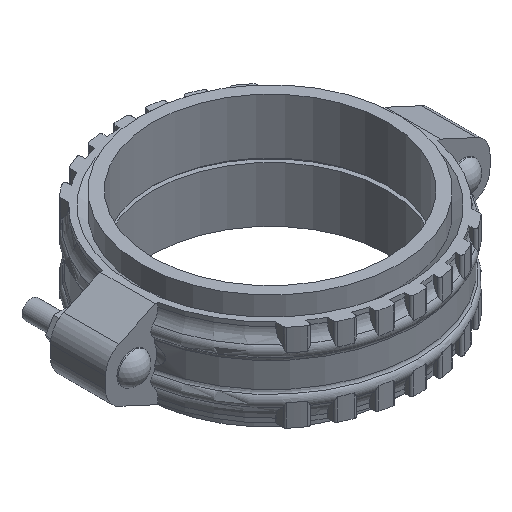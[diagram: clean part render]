
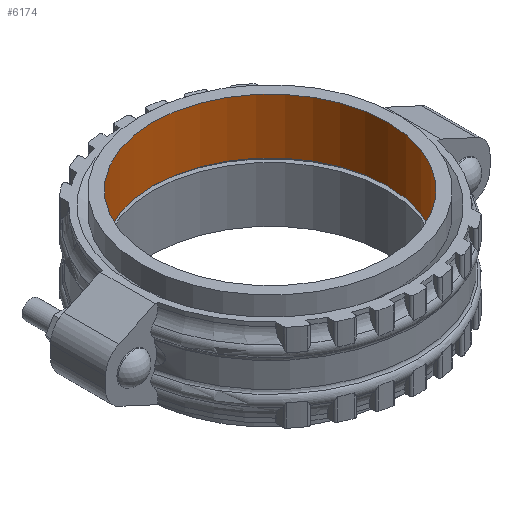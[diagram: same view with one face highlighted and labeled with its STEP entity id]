
A CAD part, isometric view. The second image highlights one B-rep face of the part: STEP entity #6174.
In plain terms, the highlighted cylindrical face has radius 161.925 mm (diameter 323.85 mm), a full revolution.
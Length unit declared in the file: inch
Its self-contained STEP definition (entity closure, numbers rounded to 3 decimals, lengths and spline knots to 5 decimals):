
#410=CYLINDRICAL_SURFACE('',#6867,6.375);
#706=FACE_OUTER_BOUND('',#1002,.T.);
#1002=EDGE_LOOP('',(#5506,#5507,#5508,#5509,#5510,#5511));
#1397=LINE('',#12021,#1790);
#1790=VECTOR('',#8504,6.375);
#2125=CIRCLE('',#6865,6.375);
#2126=CIRCLE('',#6866,6.375);
#2127=CIRCLE('',#6868,6.375);
#2128=CIRCLE('',#6869,6.375);
#2731=VERTEX_POINT('',#12015);
#2732=VERTEX_POINT('',#12016);
#2733=VERTEX_POINT('',#12020);
#2734=VERTEX_POINT('',#12022);
#3657=EDGE_CURVE('',#2731,#2732,#2125,.T.);
#3658=EDGE_CURVE('',#2732,#2731,#2126,.T.);
#3659=EDGE_CURVE('',#2732,#2733,#1397,.T.);
#3660=EDGE_CURVE('',#2734,#2733,#2127,.T.);
#3661=EDGE_CURVE('',#2733,#2734,#2128,.T.);
#5506=ORIENTED_EDGE('',*,*,#3657,.T.);
#5507=ORIENTED_EDGE('',*,*,#3659,.T.);
#5508=ORIENTED_EDGE('',*,*,#3660,.F.);
#5509=ORIENTED_EDGE('',*,*,#3661,.F.);
#5510=ORIENTED_EDGE('',*,*,#3659,.F.);
#5511=ORIENTED_EDGE('',*,*,#3658,.T.);
#6174=ADVANCED_FACE('',(#706),#410,.F.);
#6865=AXIS2_PLACEMENT_3D('',#12017,#8498,#8499);
#6866=AXIS2_PLACEMENT_3D('',#12018,#8500,#8501);
#6867=AXIS2_PLACEMENT_3D('',#12019,#8502,#8503);
#6868=AXIS2_PLACEMENT_3D('',#12023,#8505,#8506);
#6869=AXIS2_PLACEMENT_3D('',#12024,#8507,#8508);
#8498=DIRECTION('center_axis',(0.,0.,-1.));
#8499=DIRECTION('ref_axis',(1.,0.,0.));
#8500=DIRECTION('center_axis',(0.,0.,-1.));
#8501=DIRECTION('ref_axis',(1.,0.,0.));
#8502=DIRECTION('center_axis',(0.,0.,-1.));
#8503=DIRECTION('ref_axis',(0.,1.,0.));
#8504=DIRECTION('',(0.,0.,1.));
#8505=DIRECTION('center_axis',(0.,0.,-1.));
#8506=DIRECTION('ref_axis',(1.,0.,0.));
#8507=DIRECTION('center_axis',(0.,0.,-1.));
#8508=DIRECTION('ref_axis',(1.,0.,0.));
#12015=CARTESIAN_POINT('',(0.,6.375,0.));
#12016=CARTESIAN_POINT('',(0.,-6.375,0.));
#12017=CARTESIAN_POINT('Origin',(0.,0.,0.));
#12018=CARTESIAN_POINT('Origin',(0.,0.,0.));
#12019=CARTESIAN_POINT('Origin',(0.,0.,1.5));
#12020=CARTESIAN_POINT('',(0.,-6.375,3.));
#12021=CARTESIAN_POINT('',(0.,-6.375,1.5));
#12022=CARTESIAN_POINT('',(0.,6.375,3.));
#12023=CARTESIAN_POINT('Origin',(0.,0.,3.));
#12024=CARTESIAN_POINT('Origin',(0.,0.,3.));
